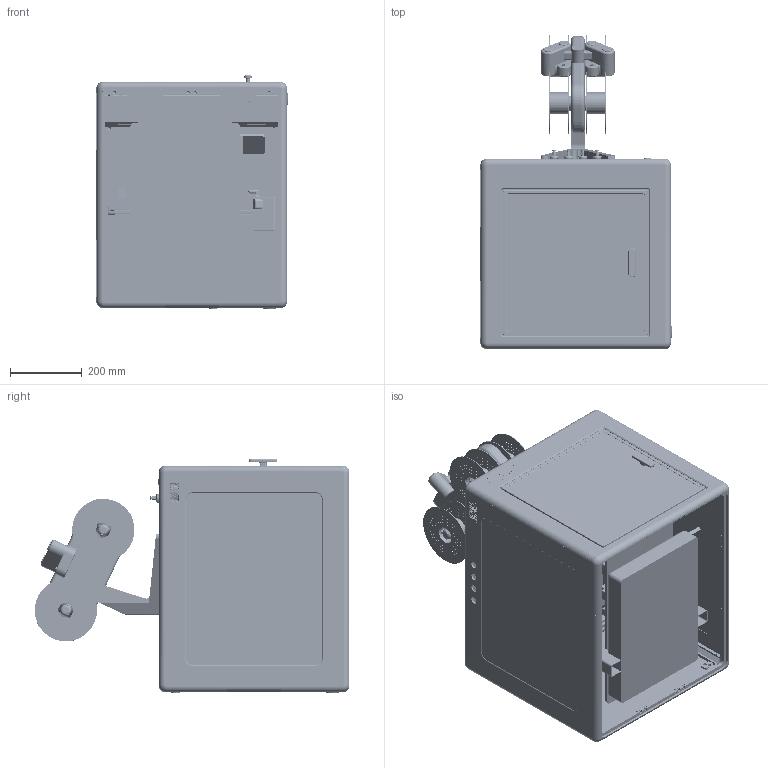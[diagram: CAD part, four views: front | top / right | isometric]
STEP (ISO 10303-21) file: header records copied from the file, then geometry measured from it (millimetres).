
FILE_DESCRIPTION (( 'STEP AP214' ), '1' );
FILE_NAME ('×°ÅäÌå1.STEP', '2026-06-10T06:30:35', ( 'China' ), ( 'Microsoft' ), 'SwSTEP 2.0', 'SolidWorks 2024', '' );
FILE_SCHEMA (( 'AUTOMOTIVE_DESIGN' ));
Length unit declared in the file: millimetre
Products named in the file (104): U2~SOT-89-3_L4.5-W2.4-P1.50-LS4.0-BR~SOT-89-3_L4.5-W2.4-P1.50-LS4.0-BR~AVHj; ams lite; JXHTY-22-长板框; 盖套左旋; 六角螺母 M4; SW_LIGHT~CONN-TH_4P-P2.50-XH2.54-4P~CONN-TH_4P-P2.50-XH2.54-4P~HVCV; 拓竹a1; 活性炭盒子2; 顶板16mm开关; 7530; endlogo; Mirror排风照明外壳; 开门框右上; end光轴; 排风照明外壳连接件; JXHTY-01-前左上角件; FAN_2~CONN-TH_2P-P2.50_HX-2.54MM-2P-ZZ-MS~CONN-TH_2P-P2.50_HX-2.54MM-2P-ZZ-MS~2a3T; JXHTY-11-右侧上中间件; LIGHT_1~CONN-TH_2P-P2.50_HX-2.54MM-2P-ZZ-MS~CONN-TH_2P-P2.50_HX-2.54MM-2P-ZZ-MS~rtAk; 400-500亚克力板; 盖板; C1~C0603~C0603_L1.6-W0.8-H0.8~Kdbi; JXHTY-16-后左上角件; 出风板框; led; JXHTY-06-前右下角件; C2~C0603~C0603_L1.6-W0.8-H0.8~DjXx; 把手; MirrorJXHTY-21-板框; 门; 过线孔; JXHTY-19-后右中间件; Metal LED Illuminated Latching 16mm Power Push Button ON-OFF Switch 12V_По умолчанию; LIGHT_2~CONN-TH_2P-P2.50_HX-2.54MM-2P-ZZ-MS~CONN-TH_2P-P2.50_HX-2.54MM-2P-ZZ-MS~Bi9v; 400-400亚克力板; 开门框左下2; JXHTY-20-后上中间件; 内六角圆柱头螺钉 M4x8; JXHTY-04-前左中间件; 进线螺母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
Assembly tree (272 placements, depth 4):
  装配体1
    JXHTY-01-前左上角件
    JXHTY-02-前上中间件
    JXHTY-03-前右上角件2
    JXHTY-04-前左中间件
    JXHTY-05-前右中间件
    JXHTY-06-前右下角件
    JXHTY-07-前左下角件
    JXHTY-08-前下中间件
    JXHTY-09-左侧上中间件
    JXHTY-10-左侧下中间件
    JXHTY-11-右侧上中间件
    JXHTY-12-右侧下中间件
    JXHTY-13-后左下角件
    JXHTY-14-后左中间件
    JXHTY-15-后右下角件
    JXHTY-16-后左上角件
    JXHTY-17-后右上角件
    JXHTY-18-后下中间件
    JXHTY-19-后右中间件
    JXHTY-20-后上中间件
    400-500亚克力板
    500-500-6玻璃
    JXHTY-21-板框  x7
    JXHTY-BJ侧进料-22-长板框
    JXHTY-22-长板框
    JXHTY-23-短板框  x5
    MirrorJXHTY-21-板框  x2
    MirrorJXHTY-22-长板框  x2
    MirrorJXHTY-23-短板框  x2
    Mirror400-500亚克力板
    JXHTY-22-过线板框  x2
    JXHTY-备件-23-短板框（入线）
    400-400亚克力板
    拓竹a1
    ams lite
    顶板
    顶板16mm开关
    Metal LED Illuminated Latching 16mm Power Push Button ON-OFF Switch 12V_По умолчанию  x2
    PC4M5  x8
    万象球  x4
    盖套  x2
    盖套左旋  x2
    门
      前门板
      开门框左上
      开门框右上
      开门框右下
      开门框左下2
      把手
      注塑螺母  x6
      cross recessed countersunk head screws gb2_GB_CROSS_SCREWS_TYPE10 M4X8-5.3-H1-N  x2
    01门铰  x2
    02门铰  x2
    过线模块  x2
    旋钮进料  x2
    旋钮进料-左旋  x2
    endlogo
    门铰轴END  x2
    end光轴  x24
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Bounding box: 532 x 875.93 x 650.5 mm (x, y, z)
Volume: 17266321 mm3; surface area: 6755488.8 mm2
Topology: 377 solids, 379 shells, 30724 faces, 85749 edges, 56281 vertices
Faces by surface type: plane 17286, cylinder 10071, bspline 1634, cone 804, torus 681, sphere 248
Entity records: 481030 total; most frequent: CARTESIAN_POINT 152211, ORIENTED_EDGE 68034, DIRECTION 65980, EDGE_CURVE 34017, VERTEX_POINT 22275, AXIS2_PLACEMENT_3D 22255, VECTOR 21470, LINE 21470
